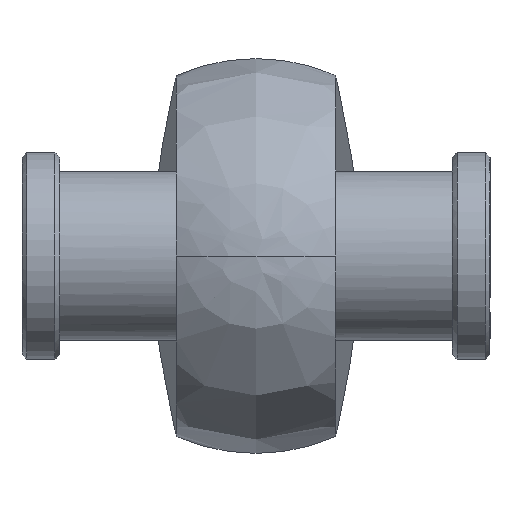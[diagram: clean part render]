
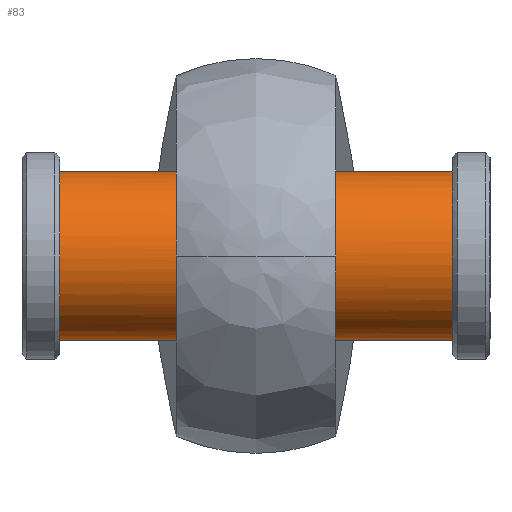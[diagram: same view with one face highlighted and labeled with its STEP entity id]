
A CAD part, left-side view. The second image highlights one B-rep face of the part: STEP entity #83.
In plain terms, the highlighted cylindrical face has radius 9 mm (diameter 18 mm), a full revolution.
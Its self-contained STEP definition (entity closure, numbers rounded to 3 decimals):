
#83=ADVANCED_FACE('',(#157),#1214,.T.);
#157=FACE_OUTER_BOUND('',#238,.T.);
#238=EDGE_LOOP('',(#506,#507,#508,#509));
#506=ORIENTED_EDGE('',*,*,#774,.T.);
#507=ORIENTED_EDGE('',*,*,#776,.T.);
#508=ORIENTED_EDGE('',*,*,#775,.T.);
#509=ORIENTED_EDGE('',*,*,#776,.F.);
#774=EDGE_CURVE('',#1128,#1128,#983,.T.);
#775=EDGE_CURVE('',#1129,#1129,#984,.T.);
#776=EDGE_CURVE('',#1128,#1129,#897,.T.);
#897=B_SPLINE_CURVE_WITH_KNOTS('',1,(#2248,#2249),.UNSPECIFIED.,.F.,.F.,
(2,2),(4.299,46.091),.UNSPECIFIED.);
#983=(
BOUNDED_CURVE()
B_SPLINE_CURVE(2,(#2230,#2231,#2232,#2233,#2234,#2235,#2236,#2237,#2238),
 .UNSPECIFIED.,.T.,.F.)
B_SPLINE_CURVE_WITH_KNOTS((3,2,2,2,3),(0.,14.137,28.274,
42.412,56.549),.UNSPECIFIED.)
CURVE()
GEOMETRIC_REPRESENTATION_ITEM()
RATIONAL_B_SPLINE_CURVE((1.,0.707,1.,0.707,1.,0.707,
1.,0.707,1.))
REPRESENTATION_ITEM('')
);
#984=(
BOUNDED_CURVE()
B_SPLINE_CURVE(2,(#2239,#2240,#2241,#2242,#2243,#2244,#2245,#2246,#2247),
 .UNSPECIFIED.,.T.,.F.)
B_SPLINE_CURVE_WITH_KNOTS((3,2,2,2,3),(0.,14.137,28.274,
42.412,56.549),.UNSPECIFIED.)
CURVE()
GEOMETRIC_REPRESENTATION_ITEM()
RATIONAL_B_SPLINE_CURVE((1.,0.707,1.,0.707,1.,0.707,
1.,0.707,1.))
REPRESENTATION_ITEM('')
);
#1128=VERTEX_POINT('',#2182);
#1129=VERTEX_POINT('',#2183);
#1214=CYLINDRICAL_SURFACE('',#1366,9.);
#1366=AXIS2_PLACEMENT_3D('',#2172,#1412,$);
#1412=DIRECTION('',(0.,-1.,0.));
#2172=CARTESIAN_POINT('',(0.,0.,0.));
#2182=CARTESIAN_POINT('',(9.,20.896,0.));
#2183=CARTESIAN_POINT('',(9.,-20.896,0.));
#2230=CARTESIAN_POINT('',(9.,20.896,0.));
#2231=CARTESIAN_POINT('',(9.,20.896,9.));
#2232=CARTESIAN_POINT('',(0.,20.896,9.));
#2233=CARTESIAN_POINT('',(-9.,20.896,9.));
#2234=CARTESIAN_POINT('',(-9.,20.896,0.));
#2235=CARTESIAN_POINT('',(-9.,20.896,-9.));
#2236=CARTESIAN_POINT('',(0.,20.896,-9.));
#2237=CARTESIAN_POINT('',(9.,20.896,-9.));
#2238=CARTESIAN_POINT('',(9.,20.896,0.));
#2239=CARTESIAN_POINT('',(9.,-20.896,0.));
#2240=CARTESIAN_POINT('',(9.,-20.896,-9.));
#2241=CARTESIAN_POINT('',(0.,-20.896,-9.));
#2242=CARTESIAN_POINT('',(-9.,-20.896,-9.));
#2243=CARTESIAN_POINT('',(-9.,-20.896,0.));
#2244=CARTESIAN_POINT('',(-9.,-20.896,9.));
#2245=CARTESIAN_POINT('',(0.,-20.896,9.));
#2246=CARTESIAN_POINT('',(9.,-20.896,9.));
#2247=CARTESIAN_POINT('',(9.,-20.896,0.));
#2248=CARTESIAN_POINT('',(9.,20.896,0.));
#2249=CARTESIAN_POINT('',(9.,-20.896,0.));
